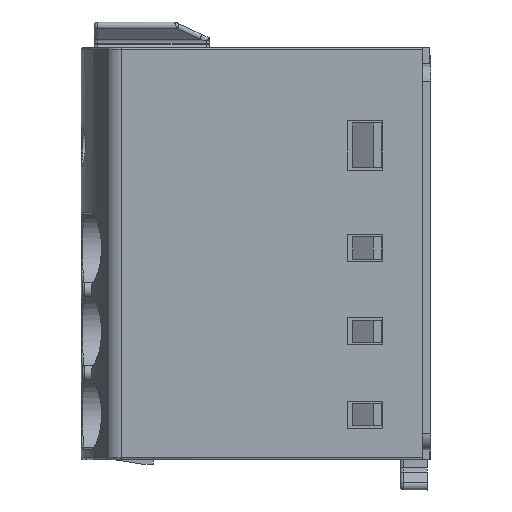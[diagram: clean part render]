
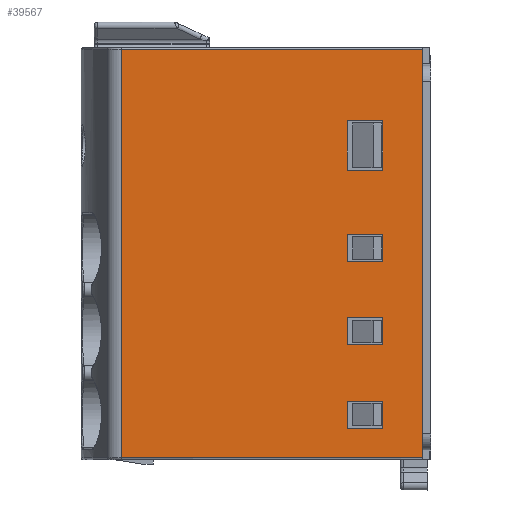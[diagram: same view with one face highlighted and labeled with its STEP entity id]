
A CAD part, left-side view. The second image highlights one B-rep face of the part: STEP entity #39567.
In plain terms, the highlighted planar face has unit normal (-1, 0.005, 0).
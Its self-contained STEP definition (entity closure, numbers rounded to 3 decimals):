
#764=DIRECTION('',(-0.005,-1.,0.));
#765=VECTOR('',#764,18.795);
#766=CARTESIAN_POINT('',(-0.2,19.295,
-24.5));
#767=LINE('',#766,#765);
#768=DIRECTION('',(0.,0.,1.));
#769=VECTOR('',#768,1.7);
#770=CARTESIAN_POINT('',(-0.287,3.,-22.65));
#771=LINE('',#770,#769);
#772=DIRECTION('',(0.,0.,-1.));
#773=VECTOR('',#772,1.7);
#774=CARTESIAN_POINT('',(-0.275,5.2,-20.95));
#775=LINE('',#774,#773);
#776=DIRECTION('',(0.,0.,-1.));
#777=VECTOR('',#776,1.7);
#778=CARTESIAN_POINT('',(-0.275,5.2,-10.55));
#779=LINE('',#778,#777);
#780=DIRECTION('',(0.,0.,1.));
#781=VECTOR('',#780,1.7);
#782=CARTESIAN_POINT('',(-0.287,3.,-12.25));
#783=LINE('',#782,#781);
#784=DIRECTION('',(0.,0.,-1.));
#785=VECTOR('',#784,3.1);
#786=CARTESIAN_POINT('',(-0.275,5.2,-3.45));
#787=LINE('',#786,#785);
#798=DIRECTION('',(0.,0.,1.));
#799=VECTOR('',#798,25.5);
#800=CARTESIAN_POINT('',(-0.3,0.5,
-24.5));
#801=LINE('',#800,#799);
#5570=DIRECTION('',(0.005,1.,0.));
#5571=VECTOR('',#5570,18.795);
#5572=CARTESIAN_POINT('',(-0.3,0.5,
1.));
#5573=LINE('',#5572,#5571);
#5721=DIRECTION('',(0.,0.,-1.));
#5722=VECTOR('',#5721,25.5);
#5723=CARTESIAN_POINT('',(-0.2,19.295,
1.));
#5724=LINE('',#5723,#5722);
#16274=DIRECTION('',(0.005,1.,0.));
#16275=VECTOR('',#16274,2.2);
#16276=CARTESIAN_POINT('',(-0.287,3.,-22.65));
#16277=LINE('',#16276,#16275);
#16282=DIRECTION('',(-0.005,-1.,0.));
#16283=VECTOR('',#16282,2.2);
#16284=CARTESIAN_POINT('',(-0.275,5.2,-20.95));
#16285=LINE('',#16284,#16283);
#16330=DIRECTION('',(-0.005,-1.,0.));
#16331=VECTOR('',#16330,2.2);
#16332=CARTESIAN_POINT('',(-0.275,5.2,-10.55));
#16333=LINE('',#16332,#16331);
#16366=DIRECTION('',(0.005,1.,0.));
#16367=VECTOR('',#16366,2.2);
#16368=CARTESIAN_POINT('',(-0.287,3.,-12.25));
#16369=LINE('',#16368,#16367);
#16438=DIRECTION('',(-0.005,-1.,0.));
#16439=VECTOR('',#16438,2.2);
#16440=CARTESIAN_POINT('',(-0.275,5.2,-3.45));
#16441=LINE('',#16440,#16439);
#16450=DIRECTION('',(0.,0.,-1.));
#16451=VECTOR('',#16450,3.1);
#16452=CARTESIAN_POINT('',(-0.287,3.,-3.45));
#16453=LINE('',#16452,#16451);
#16458=DIRECTION('',(0.005,1.,0.));
#16459=VECTOR('',#16458,2.2);
#16460=CARTESIAN_POINT('',(-0.287,3.,-6.55));
#16461=LINE('',#16460,#16459);
#16510=DIRECTION('',(0.,0.,1.));
#16511=VECTOR('',#16510,1.7);
#16512=CARTESIAN_POINT('',(-0.275,5.2,-17.45));
#16513=LINE('',#16512,#16511);
#16530=DIRECTION('',(0.,0.,-1.));
#16531=VECTOR('',#16530,1.7);
#16532=CARTESIAN_POINT('',(-0.287,3.,-15.75));
#16533=LINE('',#16532,#16531);
#16546=DIRECTION('',(0.005,1.,0.));
#16547=VECTOR('',#16546,2.2);
#16548=CARTESIAN_POINT('',(-0.287,3.,-17.45));
#16549=LINE('',#16548,#16547);
#16554=DIRECTION('',(-0.005,-1.,0.));
#16555=VECTOR('',#16554,2.2);
#16556=CARTESIAN_POINT('',(-0.275,5.2,-15.75));
#16557=LINE('',#16556,#16555);
#31602=CARTESIAN_POINT('',(-0.3,0.5,
1.));
#31603=CARTESIAN_POINT('',(-0.2,19.295,
1.));
#31604=VERTEX_POINT('',#31602);
#31605=VERTEX_POINT('',#31603);
#31606=CARTESIAN_POINT('',(-0.275,5.2,-10.55));
#31607=CARTESIAN_POINT('',(-0.287,3.,-10.55));
#31608=VERTEX_POINT('',#31606);
#31609=VERTEX_POINT('',#31607);
#31610=CARTESIAN_POINT('',(-0.275,5.2,-12.25));
#31611=VERTEX_POINT('',#31610);
#31612=CARTESIAN_POINT('',(-0.287,3.,-12.25));
#31613=VERTEX_POINT('',#31612);
#31614=CARTESIAN_POINT('',(-0.275,5.2,-15.75));
#31615=CARTESIAN_POINT('',(-0.287,3.,-15.75));
#31616=VERTEX_POINT('',#31614);
#31617=VERTEX_POINT('',#31615);
#31618=CARTESIAN_POINT('',(-0.275,5.2,-3.45));
#31619=CARTESIAN_POINT('',(-0.275,5.2,-6.55));
#31620=VERTEX_POINT('',#31618);
#31621=VERTEX_POINT('',#31619);
#31622=CARTESIAN_POINT('',(-0.287,3.,-6.55));
#31623=VERTEX_POINT('',#31622);
#31624=CARTESIAN_POINT('',(-0.287,3.,-3.45));
#31625=VERTEX_POINT('',#31624);
#36137=CARTESIAN_POINT('',(-0.2,19.295,
-24.5));
#36139=VERTEX_POINT('',#36137);
#36141=CARTESIAN_POINT('',(-0.3,0.5,
-24.5));
#36142=VERTEX_POINT('',#36141);
#36144=CARTESIAN_POINT('',(-0.287,3.,-22.65));
#36145=CARTESIAN_POINT('',(-0.287,3.,-20.95));
#36146=VERTEX_POINT('',#36144);
#36147=VERTEX_POINT('',#36145);
#36148=CARTESIAN_POINT('',(-0.275,5.2,-20.95));
#36149=VERTEX_POINT('',#36148);
#36150=CARTESIAN_POINT('',(-0.275,5.2,-22.65));
#36151=VERTEX_POINT('',#36150);
#36152=CARTESIAN_POINT('',(-0.287,3.,-17.45));
#36153=CARTESIAN_POINT('',(-0.275,5.2,-17.45));
#36154=VERTEX_POINT('',#36152);
#36155=VERTEX_POINT('',#36153);
#39513=CARTESIAN_POINT('',(-0.2,19.295,-55.8));
#39514=DIRECTION('',(-1.,0.005,0.));
#39515=DIRECTION('',(0.005,1.,0.));
#39516=AXIS2_PLACEMENT_3D('',#39513,#39514,#39515);
#39517=PLANE('',#39516);
#39519=ORIENTED_EDGE('',*,*,#39518,.F.);
#39520=ORIENTED_EDGE('',*,*,#39503,.F.);
#39522=ORIENTED_EDGE('',*,*,#39521,.F.);
#39524=ORIENTED_EDGE('',*,*,#39523,.F.);
#39525=EDGE_LOOP('',(#39519,#39520,#39522,#39524));
#39526=FACE_OUTER_BOUND('',#39525,.F.);
#39528=ORIENTED_EDGE('',*,*,#39527,.T.);
#39530=ORIENTED_EDGE('',*,*,#39529,.F.);
#39532=ORIENTED_EDGE('',*,*,#39531,.T.);
#39534=ORIENTED_EDGE('',*,*,#39533,.F.);
#39535=EDGE_LOOP('',(#39528,#39530,#39532,#39534));
#39536=FACE_BOUND('',#39535,.F.);
#39538=ORIENTED_EDGE('',*,*,#39537,.F.);
#39540=ORIENTED_EDGE('',*,*,#39539,.T.);
#39542=ORIENTED_EDGE('',*,*,#39541,.F.);
#39544=ORIENTED_EDGE('',*,*,#39543,.T.);
#39545=EDGE_LOOP('',(#39538,#39540,#39542,#39544));
#39546=FACE_BOUND('',#39545,.F.);
#39548=ORIENTED_EDGE('',*,*,#39547,.T.);
#39550=ORIENTED_EDGE('',*,*,#39549,.F.);
#39552=ORIENTED_EDGE('',*,*,#39551,.F.);
#39554=ORIENTED_EDGE('',*,*,#39553,.F.);
#39555=EDGE_LOOP('',(#39548,#39550,#39552,#39554));
#39556=FACE_BOUND('',#39555,.F.);
#39558=ORIENTED_EDGE('',*,*,#39557,.F.);
#39560=ORIENTED_EDGE('',*,*,#39559,.F.);
#39562=ORIENTED_EDGE('',*,*,#39561,.F.);
#39564=ORIENTED_EDGE('',*,*,#39563,.F.);
#39565=EDGE_LOOP('',(#39558,#39560,#39562,#39564));
#39566=FACE_BOUND('',#39565,.F.);
#39567=ADVANCED_FACE('',(#39526,#39536,#39546,#39556,#39566),#39517,.T.);
#39503=EDGE_CURVE('',#36139,#36142,#767,.T.);
#39518=EDGE_CURVE('',#36142,#31604,#801,.T.);
#39521=EDGE_CURVE('',#31605,#36139,#5724,.T.);
#39523=EDGE_CURVE('',#31604,#31605,#5573,.T.);
#39527=EDGE_CURVE('',#36146,#36147,#771,.T.);
#39529=EDGE_CURVE('',#36149,#36147,#16285,.T.);
#39531=EDGE_CURVE('',#36149,#36151,#775,.T.);
#39533=EDGE_CURVE('',#36146,#36151,#16277,.T.);
#39537=EDGE_CURVE('',#31608,#31609,#16333,.T.);
#39539=EDGE_CURVE('',#31608,#31611,#779,.T.);
#39541=EDGE_CURVE('',#31613,#31611,#16369,.T.);
#39543=EDGE_CURVE('',#31613,#31609,#783,.T.);
#39547=EDGE_CURVE('',#31620,#31621,#787,.T.);
#39549=EDGE_CURVE('',#31623,#31621,#16461,.T.);
#39551=EDGE_CURVE('',#31625,#31623,#16453,.T.);
#39553=EDGE_CURVE('',#31620,#31625,#16441,.T.);
#39557=EDGE_CURVE('',#36155,#31616,#16513,.T.);
#39559=EDGE_CURVE('',#36154,#36155,#16549,.T.);
#39561=EDGE_CURVE('',#31617,#36154,#16533,.T.);
#39563=EDGE_CURVE('',#31616,#31617,#16557,.T.);
